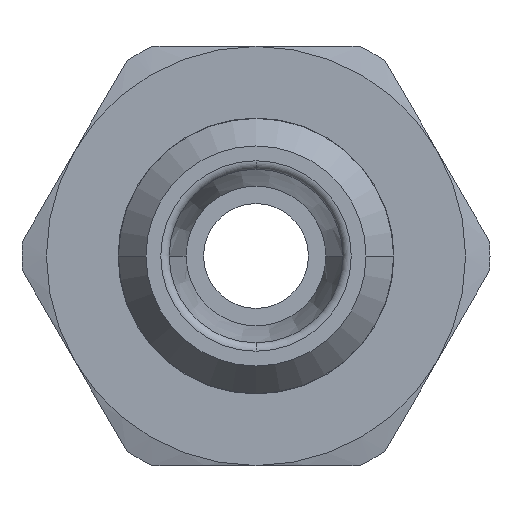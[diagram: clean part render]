
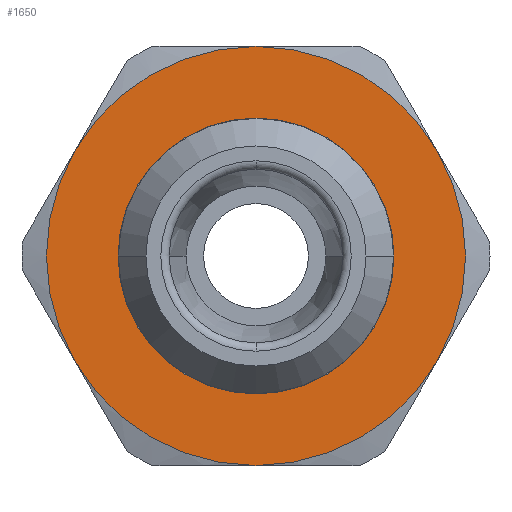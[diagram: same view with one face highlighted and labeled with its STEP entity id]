
A CAD part, left-side view. The second image highlights one B-rep face of the part: STEP entity #1650.
In plain terms, the highlighted planar face has unit normal (-1, 0, 0) as drawn and (0, 0, 1) by its records, which use the part's own axes.
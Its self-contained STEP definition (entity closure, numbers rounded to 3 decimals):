
#808=CARTESIAN_POINT('',(-3.95,0.,2.0));
#809=VERTEX_POINT('',#808);
#835=CARTESIAN_POINT('',(3.95,0.,2.0));
#836=VERTEX_POINT('',#835);
#844=CARTESIAN_POINT('',(0.,0.,2.0));
#845=DIRECTION('',(0.0,0.0,1.0));
#846=DIRECTION('',(-1.0,0.0,0.0));
#847=AXIS2_PLACEMENT_3D('',#844,#845,#846);
#848=CIRCLE('',#847,3.95);
#849=EDGE_CURVE('',#836,#809,#848,.T.);
#1530=CARTESIAN_POINT('',(0.,-3.95,2.));
#1531=VERTEX_POINT('',#1530);
#1532=CARTESIAN_POINT('',(0.,0.,2.0));
#1533=DIRECTION('',(0.0,0.0,1.0));
#1534=DIRECTION('',(-1.0,0.0,0.0));
#1535=AXIS2_PLACEMENT_3D('',#1532,#1533,#1534);
#1536=CIRCLE('',#1535,3.95);
#1537=EDGE_CURVE('',#809,#1531,#1536,.T.);
#1539=CARTESIAN_POINT('',(0.,0.,2.0));
#1540=DIRECTION('',(0.0,0.0,1.0));
#1541=DIRECTION('',(-1.0,0.0,0.0));
#1542=AXIS2_PLACEMENT_3D('',#1539,#1540,#1541);
#1543=CIRCLE('',#1542,3.95);
#1544=EDGE_CURVE('',#1531,#836,#1543,.T.);
#1584=CARTESIAN_POINT('',(0.,0.,2.0));
#1585=DIRECTION('',(0.0,0.0,1.0));
#1586=DIRECTION('',(1.0,0.0,0.0));
#1587=AXIS2_PLACEMENT_3D('',#1584,#1585,#1586);
#1588=PLANE('',#1587);
#1589=CARTESIAN_POINT('',(3.,-5.196,2.));
#1590=VERTEX_POINT('',#1589);
#1591=CARTESIAN_POINT('',(6.0,0.0,2.));
#1592=VERTEX_POINT('',#1591);
#1593=CARTESIAN_POINT('',(0.,0.0,2.0));
#1594=DIRECTION('',(0.0,0.0,1.0));
#1595=DIRECTION('',(1.0,0.0,0.0));
#1596=AXIS2_PLACEMENT_3D('',#1593,#1594,#1595);
#1597=CIRCLE('',#1596,6.);
#1598=EDGE_CURVE('',#1590,#1592,#1597,.T.);
#1599=ORIENTED_EDGE('',*,*,#1598,.T.);
#1600=CARTESIAN_POINT('',(3.,5.196,2.));
#1601=VERTEX_POINT('',#1600);
#1602=CARTESIAN_POINT('',(0.,0.0,2.0));
#1603=DIRECTION('',(0.0,0.0,1.0));
#1604=DIRECTION('',(1.0,0.0,0.0));
#1605=AXIS2_PLACEMENT_3D('',#1602,#1603,#1604);
#1606=CIRCLE('',#1605,6.);
#1607=EDGE_CURVE('',#1592,#1601,#1606,.T.);
#1608=ORIENTED_EDGE('',*,*,#1607,.T.);
#1609=CARTESIAN_POINT('',(-3.,5.196,2.));
#1610=VERTEX_POINT('',#1609);
#1611=CARTESIAN_POINT('',(0.,0.0,2.0));
#1612=DIRECTION('',(0.0,0.0,1.0));
#1613=DIRECTION('',(1.0,0.0,0.0));
#1614=AXIS2_PLACEMENT_3D('',#1611,#1612,#1613);
#1615=CIRCLE('',#1614,6.);
#1616=EDGE_CURVE('',#1601,#1610,#1615,.T.);
#1617=ORIENTED_EDGE('',*,*,#1616,.T.);
#1618=CARTESIAN_POINT('',(-6.,0.,2.));
#1619=VERTEX_POINT('',#1618);
#1620=CARTESIAN_POINT('',(0.,0.0,2.0));
#1621=DIRECTION('',(0.0,0.0,1.0));
#1622=DIRECTION('',(1.0,0.0,0.0));
#1623=AXIS2_PLACEMENT_3D('',#1620,#1621,#1622);
#1624=CIRCLE('',#1623,6.);
#1625=EDGE_CURVE('',#1610,#1619,#1624,.T.);
#1626=ORIENTED_EDGE('',*,*,#1625,.T.);
#1627=CARTESIAN_POINT('',(-3.,-5.196,2.));
#1628=VERTEX_POINT('',#1627);
#1629=CARTESIAN_POINT('',(0.,0.0,2.0));
#1630=DIRECTION('',(0.0,0.0,1.0));
#1631=DIRECTION('',(1.0,0.0,0.0));
#1632=AXIS2_PLACEMENT_3D('',#1629,#1630,#1631);
#1633=CIRCLE('',#1632,6.);
#1634=EDGE_CURVE('',#1619,#1628,#1633,.T.);
#1635=ORIENTED_EDGE('',*,*,#1634,.T.);
#1636=CARTESIAN_POINT('',(0.,0.0,2.0));
#1637=DIRECTION('',(0.0,0.0,1.0));
#1638=DIRECTION('',(1.0,0.0,0.0));
#1639=AXIS2_PLACEMENT_3D('',#1636,#1637,#1638);
#1640=CIRCLE('',#1639,6.);
#1641=EDGE_CURVE('',#1628,#1590,#1640,.T.);
#1642=ORIENTED_EDGE('',*,*,#1641,.T.);
#1643=EDGE_LOOP('',(#1599,#1608,#1617,#1626,#1635,#1642));
#1644=FACE_OUTER_BOUND('',#1643,.T.);
#1645=ORIENTED_EDGE('',*,*,#1544,.F.);
#1646=ORIENTED_EDGE('',*,*,#1537,.F.);
#1647=ORIENTED_EDGE('',*,*,#849,.F.);
#1648=EDGE_LOOP('',(#1645,#1646,#1647));
#1649=FACE_BOUND('',#1648,.T.);
#1650=ADVANCED_FACE('',(#1644,#1649),#1588,.T.);
